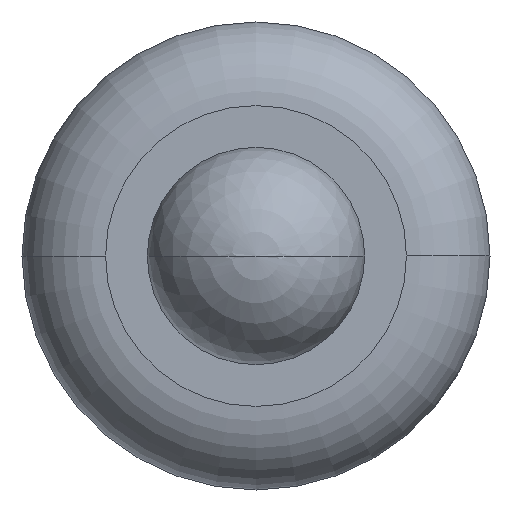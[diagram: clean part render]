
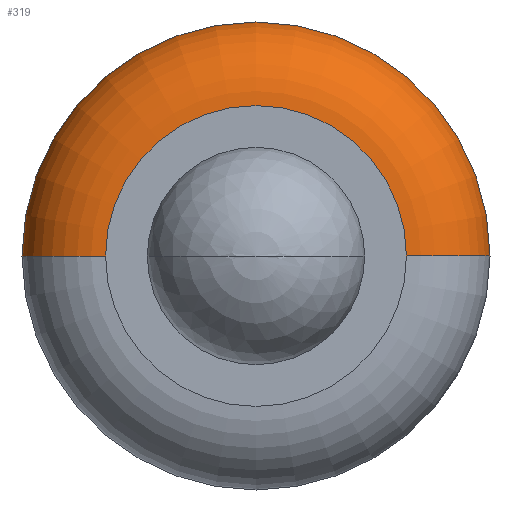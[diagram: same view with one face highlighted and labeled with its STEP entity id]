
A CAD part, front view. The second image highlights one B-rep face of the part: STEP entity #319.
In plain terms, the highlighted toroidal (fillet/blend) face has major radius 0.09 mm and minor radius 0.05 mm.
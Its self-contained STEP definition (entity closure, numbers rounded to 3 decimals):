
#76=CARTESIAN_POINT('',(0.,-3.95,0.));
#77=DIRECTION('',(0.,1.,0.));
#78=DIRECTION('',(-1.,0.,0.));
#79=AXIS2_PLACEMENT_3D('',#76,#77,#78);
#85=CARTESIAN_POINT('',(-0.09,-3.95,0.));
#86=DIRECTION('',(0.,0.,1.));
#87=DIRECTION('',(-1.,0.,0.));
#88=AXIS2_PLACEMENT_3D('',#85,#86,#87);
#90=CARTESIAN_POINT('',(0.09,-3.95,0.));
#91=DIRECTION('',(0.,0.,-1.));
#92=DIRECTION('',(1.,0.,0.));
#93=AXIS2_PLACEMENT_3D('',#90,#91,#92);
#105=CARTESIAN_POINT('',(0.,-4.,0.));
#106=DIRECTION('',(0.,1.,0.));
#107=DIRECTION('',(-1.,0.,0.));
#108=AXIS2_PLACEMENT_3D('',#105,#106,#107);
#171=CARTESIAN_POINT('',(-0.14,-3.95,0.));
#172=CARTESIAN_POINT('',(0.14,-3.95,0.));
#173=VERTEX_POINT('',#171);
#174=VERTEX_POINT('',#172);
#175=CARTESIAN_POINT('',(-0.09,-4.,0.));
#176=CARTESIAN_POINT('',(0.09,-4.,0.));
#177=VERTEX_POINT('',#175);
#178=VERTEX_POINT('',#176);
#305=CARTESIAN_POINT('',(0.,-3.95,0.));
#306=DIRECTION('',(0.,1.,0.));
#307=DIRECTION('',(-0.998,0.,-0.066));
#308=AXIS2_PLACEMENT_3D('',#305,#306,#307);
#309=TOROIDAL_SURFACE('',#308,0.09,0.05);
#310=ORIENTED_EDGE('',*,*,#299,.T.);
#312=ORIENTED_EDGE('',*,*,#311,.T.);
#314=ORIENTED_EDGE('',*,*,#313,.F.);
#316=ORIENTED_EDGE('',*,*,#315,.F.);
#317=EDGE_LOOP('',(#310,#312,#314,#316));
#318=FACE_OUTER_BOUND('',#317,.F.);
#80=CIRCLE('',#79,0.14);
#89=CIRCLE('',#88,0.05);
#94=CIRCLE('',#93,0.05);
#109=CIRCLE('',#108,0.09);
#299=EDGE_CURVE('',#173,#174,#80,.T.);
#311=EDGE_CURVE('',#174,#178,#94,.T.);
#313=EDGE_CURVE('',#177,#178,#109,.T.);
#315=EDGE_CURVE('',#173,#177,#89,.T.);
#319=ADVANCED_FACE('',(#318),#309,.T.);
